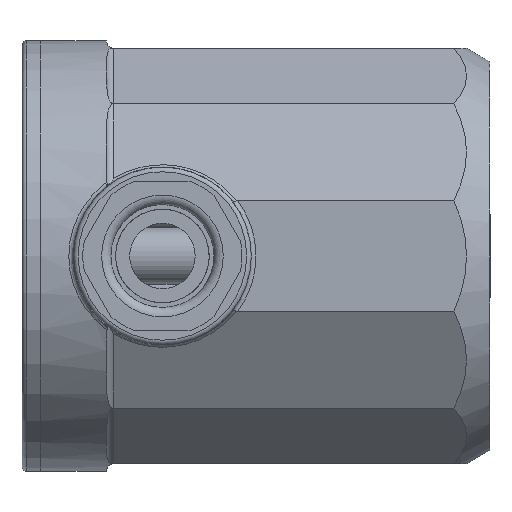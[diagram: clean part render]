
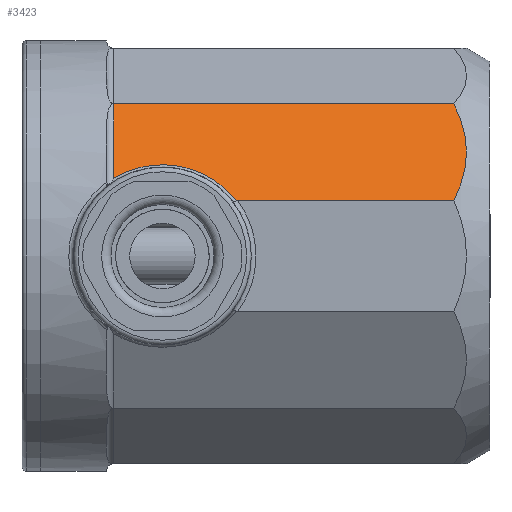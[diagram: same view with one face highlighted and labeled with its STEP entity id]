
A CAD part, left-side view. The second image highlights one B-rep face of the part: STEP entity #3423.
In plain terms, the highlighted planar face has unit normal (-0.866, 0, 0.5) as drawn and (0.866, 0, 0.5) by its records, which use the part's own axes.
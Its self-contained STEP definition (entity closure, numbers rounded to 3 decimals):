
#128=(
BOUNDED_CURVE()
B_SPLINE_CURVE(2,(#6541,#6542,#6543),.UNSPECIFIED.,.F.,.F.)
B_SPLINE_CURVE_WITH_KNOTS((3,3),(-6.71,-4.222),
 .UNSPECIFIED.)
CURVE()
GEOMETRIC_REPRESENTATION_ITEM()
RATIONAL_B_SPLINE_CURVE((1.477,1.529,1.477))
REPRESENTATION_ITEM('')
);
#267=LINE('',#6445,#444);
#268=LINE('',#6453,#445);
#269=LINE('',#6544,#446);
#444=VECTOR('',#4562,1000.);
#445=VECTOR('',#4567,1000.);
#446=VECTOR('',#4568,1000.);
#619=PLANE('',#3854);
#761=FACE_OUTER_BOUND('',#978,.T.);
#978=EDGE_LOOP('',(#2694,#2695,#2696,#2697,#2698,#2699));
#1160=B_SPLINE_CURVE_WITH_KNOTS('',3,(#6455,#6456,#6457,#6458,#6459,#6460,
#6461,#6462,#6463,#6464,#6465,#6466,#6467,#6468,#6469,#6470,#6471,#6472,
#6473,#6474,#6475,#6476,#6477,#6478,#6479,#6480,#6481,#6482,#6483,#6484,
#6485,#6486,#6487,#6488,#6489,#6490,#6491,#6492,#6493,#6494,#6495,#6496,
#6497,#6498,#6499,#6500,#6501,#6502,#6503,#6504,#6505,#6506,#6507,#6508,
#6509,#6510,#6511,#6512,#6513,#6514,#6515,#6516,#6517,#6518,#6519,#6520,
#6521,#6522,#6523,#6524,#6525,#6526,#6527,#6528,#6529,#6530,#6531,#6532,
#6533),.UNSPECIFIED.,.F.,.F.,(4,3,3,3,3,3,3,3,3,3,3,3,3,3,3,3,3,3,3,3,3,
3,3,3,3,3,4),(2.595,2.655,2.716,2.778,
2.84,2.883,2.942,3.002,3.062,
3.122,3.183,3.244,3.272,3.332,
3.393,3.454,3.515,3.575,3.635,
3.658,3.72,3.782,3.843,3.904,
3.965,4.025,4.049),.UNSPECIFIED.);
#1161=B_SPLINE_CURVE_WITH_KNOTS('',3,(#6534,#6535,#6536,#6537,#6538,#6539),
 .UNSPECIFIED.,.F.,.F.,(4,2,4),(-0.165,-0.159,-0.15),
 .UNSPECIFIED.);
#1574=VERTEX_POINT('',#6443);
#1575=VERTEX_POINT('',#6444);
#1576=VERTEX_POINT('',#6451);
#1577=VERTEX_POINT('',#6452);
#1578=VERTEX_POINT('',#6454);
#1579=VERTEX_POINT('',#6540);
#1977=EDGE_CURVE('',#1574,#1575,#267,.T.);
#1980=EDGE_CURVE('',#1576,#1577,#268,.T.);
#1981=EDGE_CURVE('',#1577,#1578,#1160,.T.);
#1982=EDGE_CURVE('',#1578,#1574,#1161,.T.);
#1983=EDGE_CURVE('',#1579,#1575,#128,.T.);
#1984=EDGE_CURVE('',#1576,#1579,#269,.T.);
#2694=ORIENTED_EDGE('',*,*,#1980,.T.);
#2695=ORIENTED_EDGE('',*,*,#1981,.T.);
#2696=ORIENTED_EDGE('',*,*,#1982,.T.);
#2697=ORIENTED_EDGE('',*,*,#1977,.T.);
#2698=ORIENTED_EDGE('',*,*,#1983,.F.);
#2699=ORIENTED_EDGE('',*,*,#1984,.F.);
#3423=ADVANCED_FACE('',(#761),#619,.T.);
#3854=AXIS2_PLACEMENT_3D('',#6450,#4565,#4566);
#4562=DIRECTION('',(0.,1.,0.));
#4565=DIRECTION('center_axis',(0.866,0.,0.5));
#4566=DIRECTION('ref_axis',(0.5,0.,-0.866));
#4567=DIRECTION('',(0.5,0.,-0.866));
#4568=DIRECTION('',(0.,1.,0.));
#6443=CARTESIAN_POINT('',(22.2,21.038,5.948));
#6444=CARTESIAN_POINT('',(22.2,44.132,5.948));
#6445=CARTESIAN_POINT('',(22.2,7.,5.948));
#6450=CARTESIAN_POINT('Origin',(16.252,7.,16.252));
#6451=CARTESIAN_POINT('',(16.252,7.8,16.252));
#6452=CARTESIAN_POINT('',(20.847,7.8,8.291));
#6453=CARTESIAN_POINT('',(22.2,7.8,5.948));
#6454=CARTESIAN_POINT('',(22.224,20.879,5.907));
#6455=CARTESIAN_POINT('Ctrl Pts',(20.847,7.8,8.291));
#6456=CARTESIAN_POINT('Ctrl Pts',(20.792,7.958,8.387));
#6457=CARTESIAN_POINT('Ctrl Pts',(20.738,8.121,8.48));
#6458=CARTESIAN_POINT('Ctrl Pts',(20.687,8.287,8.569));
#6459=CARTESIAN_POINT('Ctrl Pts',(20.635,8.455,8.659));
#6460=CARTESIAN_POINT('Ctrl Pts',(20.586,8.627,8.745));
#6461=CARTESIAN_POINT('Ctrl Pts',(20.538,8.804,8.826));
#6462=CARTESIAN_POINT('Ctrl Pts',(20.491,8.981,8.908));
#6463=CARTESIAN_POINT('Ctrl Pts',(20.446,9.162,8.986));
#6464=CARTESIAN_POINT('Ctrl Pts',(20.405,9.347,9.058));
#6465=CARTESIAN_POINT('Ctrl Pts',(20.362,9.533,9.131));
#6466=CARTESIAN_POINT('Ctrl Pts',(20.323,9.722,9.2));
#6467=CARTESIAN_POINT('Ctrl Pts',(20.287,9.915,9.262));
#6468=CARTESIAN_POINT('Ctrl Pts',(20.261,10.051,9.306));
#6469=CARTESIAN_POINT('Ctrl Pts',(20.238,10.188,9.347));
#6470=CARTESIAN_POINT('Ctrl Pts',(20.215,10.326,9.386));
#6471=CARTESIAN_POINT('Ctrl Pts',(20.185,10.516,9.438));
#6472=CARTESIAN_POINT('Ctrl Pts',(20.158,10.708,9.486));
#6473=CARTESIAN_POINT('Ctrl Pts',(20.134,10.903,9.527));
#6474=CARTESIAN_POINT('Ctrl Pts',(20.109,11.099,9.569));
#6475=CARTESIAN_POINT('Ctrl Pts',(20.089,11.297,9.606));
#6476=CARTESIAN_POINT('Ctrl Pts',(20.071,11.498,9.636));
#6477=CARTESIAN_POINT('Ctrl Pts',(20.053,11.699,9.667));
#6478=CARTESIAN_POINT('Ctrl Pts',(20.039,11.903,9.691));
#6479=CARTESIAN_POINT('Ctrl Pts',(20.029,12.107,9.709));
#6480=CARTESIAN_POINT('Ctrl Pts',(20.018,12.314,9.728));
#6481=CARTESIAN_POINT('Ctrl Pts',(20.011,12.521,9.74));
#6482=CARTESIAN_POINT('Ctrl Pts',(20.008,12.73,9.746));
#6483=CARTESIAN_POINT('Ctrl Pts',(20.004,12.938,9.751));
#6484=CARTESIAN_POINT('Ctrl Pts',(20.005,13.148,9.751));
#6485=CARTESIAN_POINT('Ctrl Pts',(20.009,13.358,9.743));
#6486=CARTESIAN_POINT('Ctrl Pts',(20.013,13.567,9.736));
#6487=CARTESIAN_POINT('Ctrl Pts',(20.021,13.777,9.722));
#6488=CARTESIAN_POINT('Ctrl Pts',(20.033,13.986,9.701));
#6489=CARTESIAN_POINT('Ctrl Pts',(20.039,14.084,9.692));
#6490=CARTESIAN_POINT('Ctrl Pts',(20.045,14.182,9.68));
#6491=CARTESIAN_POINT('Ctrl Pts',(20.053,14.28,9.668));
#6492=CARTESIAN_POINT('Ctrl Pts',(20.068,14.488,9.641));
#6493=CARTESIAN_POINT('Ctrl Pts',(20.088,14.696,9.607));
#6494=CARTESIAN_POINT('Ctrl Pts',(20.111,14.902,9.567));
#6495=CARTESIAN_POINT('Ctrl Pts',(20.134,15.109,9.527));
#6496=CARTESIAN_POINT('Ctrl Pts',(20.161,15.315,9.48));
#6497=CARTESIAN_POINT('Ctrl Pts',(20.192,15.519,9.427));
#6498=CARTESIAN_POINT('Ctrl Pts',(20.222,15.723,9.374));
#6499=CARTESIAN_POINT('Ctrl Pts',(20.257,15.926,9.314));
#6500=CARTESIAN_POINT('Ctrl Pts',(20.295,16.126,9.248));
#6501=CARTESIAN_POINT('Ctrl Pts',(20.333,16.326,9.182));
#6502=CARTESIAN_POINT('Ctrl Pts',(20.374,16.523,9.11));
#6503=CARTESIAN_POINT('Ctrl Pts',(20.419,16.718,9.033));
#6504=CARTESIAN_POINT('Ctrl Pts',(20.464,16.911,8.955));
#6505=CARTESIAN_POINT('Ctrl Pts',(20.512,17.102,8.872));
#6506=CARTESIAN_POINT('Ctrl Pts',(20.563,17.289,8.783));
#6507=CARTESIAN_POINT('Ctrl Pts',(20.614,17.475,8.695));
#6508=CARTESIAN_POINT('Ctrl Pts',(20.668,17.657,8.602));
#6509=CARTESIAN_POINT('Ctrl Pts',(20.725,17.836,8.503));
#6510=CARTESIAN_POINT('Ctrl Pts',(20.746,17.902,8.466));
#6511=CARTESIAN_POINT('Ctrl Pts',(20.768,17.968,8.429));
#6512=CARTESIAN_POINT('Ctrl Pts',(20.79,18.033,8.391));
#6513=CARTESIAN_POINT('Ctrl Pts',(20.851,18.215,8.285));
#6514=CARTESIAN_POINT('Ctrl Pts',(20.915,18.392,8.174));
#6515=CARTESIAN_POINT('Ctrl Pts',(20.982,18.565,8.058));
#6516=CARTESIAN_POINT('Ctrl Pts',(21.049,18.738,7.943));
#6517=CARTESIAN_POINT('Ctrl Pts',(21.118,18.905,7.822));
#6518=CARTESIAN_POINT('Ctrl Pts',(21.19,19.068,7.698));
#6519=CARTESIAN_POINT('Ctrl Pts',(21.261,19.229,7.575));
#6520=CARTESIAN_POINT('Ctrl Pts',(21.335,19.386,7.447));
#6521=CARTESIAN_POINT('Ctrl Pts',(21.41,19.537,7.316));
#6522=CARTESIAN_POINT('Ctrl Pts',(21.485,19.687,7.187));
#6523=CARTESIAN_POINT('Ctrl Pts',(21.562,19.832,7.054));
#6524=CARTESIAN_POINT('Ctrl Pts',(21.64,19.972,6.918));
#6525=CARTESIAN_POINT('Ctrl Pts',(21.718,20.111,6.783));
#6526=CARTESIAN_POINT('Ctrl Pts',(21.798,20.244,6.645));
#6527=CARTESIAN_POINT('Ctrl Pts',(21.878,20.373,6.505));
#6528=CARTESIAN_POINT('Ctrl Pts',(21.959,20.5,6.366));
#6529=CARTESIAN_POINT('Ctrl Pts',(22.04,20.622,6.225));
#6530=CARTESIAN_POINT('Ctrl Pts',(22.123,20.739,6.082));
#6531=CARTESIAN_POINT('Ctrl Pts',(22.156,20.787,6.024));
#6532=CARTESIAN_POINT('Ctrl Pts',(22.19,20.834,5.966));
#6533=CARTESIAN_POINT('Ctrl Pts',(22.224,20.879,5.907));
#6534=CARTESIAN_POINT('Ctrl Pts',(22.224,20.879,5.907));
#6535=CARTESIAN_POINT('Ctrl Pts',(22.217,20.897,5.919));
#6536=CARTESIAN_POINT('Ctrl Pts',(22.211,20.92,5.93));
#6537=CARTESIAN_POINT('Ctrl Pts',(22.202,20.97,5.944));
#6538=CARTESIAN_POINT('Ctrl Pts',(22.2,21.007,5.948));
#6539=CARTESIAN_POINT('Ctrl Pts',(22.2,21.038,5.948));
#6540=CARTESIAN_POINT('',(16.252,44.132,16.252));
#6541=CARTESIAN_POINT('Ctrl Pts',(16.252,44.132,16.252));
#6542=CARTESIAN_POINT('Ctrl Pts',(19.226,46.799,11.1));
#6543=CARTESIAN_POINT('Ctrl Pts',(22.2,44.132,5.948));
#6544=CARTESIAN_POINT('',(16.252,7.,16.252));
